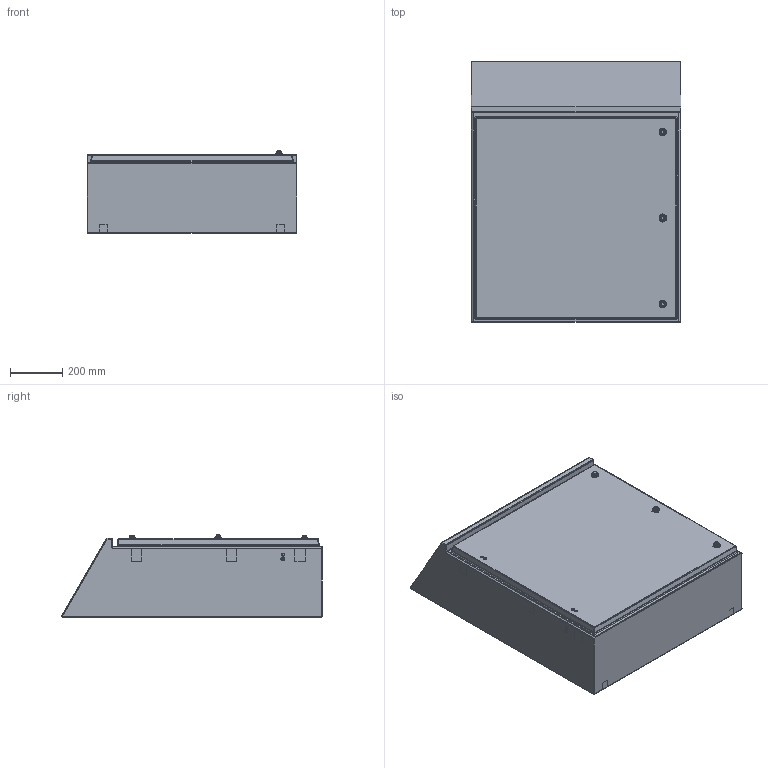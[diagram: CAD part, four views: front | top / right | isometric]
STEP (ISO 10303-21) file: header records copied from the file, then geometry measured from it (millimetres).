
FILE_DESCRIPTION (( 'STEP AP203' ), '1' );
FILE_NAME ('SITO-QSH88.STEP', '2021-05-06T07:49:06', ( '' ), ( '' ), 'SwSTEP 2.0', 'SolidWorks 2020', '' );
FILE_SCHEMA (( 'CONFIG_CONTROL_DESIGN' ));
Length unit declared in the file: millimetre
Products named in the file (20): SITO-FASCIAME QSH88_QSH45; CEPOM(CORPO); DM06I; SVPIQSH88A; SG460-SD senza scarpetta_Configurazione 1; SG460-32-HD_Posizione 4; PIQSH88A; SITO-ASSIEME PORTA QSH88; SITO-PORTA QSH88; SG460-32-HD_Posizione 3; DMFD08Z; 1000-S1491; PRM615TL316; CERNIERA; GHIERA SG CASSETTE; ADMT_ADMT; SITO-QSH88; Scarpetta H.32 SG460-SD_Configurazione 2; RP0612I
Assembly tree (39 placements, depth 4):
  SITO-QSH88
    SITO-FASCIAME QSH88_QSH45
    PIQSH88A
      SVPIQSH88A
    SITO-ASSIEME PORTA QSH88
      SITO-PORTA QSH88
      SG460-32-HD_Posizione 4
        1000-S1491
        GHIERA SG CASSETTE
        Scarpetta H.32 SG460-SD_Configurazione 2
        CEPOM(CORPO)
        SG460-SD senza scarpetta_Configurazione 1
      SG460-32-HD_Posizione 3
        1000-S1491
        GHIERA SG CASSETTE
        Scarpetta H.32 SG460-SD_Configurazione 2
        CEPOM(CORPO)
      PRM615TL316  x2
      ADMT_ADMT  x2
      RP0612I  x2
      DM06I  x2
      SG460-32-HD_Posizione 4
        1000-S1491
        GHIERA SG CASSETTE
        Scarpetta H.32 SG460-SD_Configurazione 2
        CEPOM(CORPO)
        SG460-SD senza scarpetta_Configurazione 1
    DMFD08Z  x4
    ADMT_ADMT  x2
    CERNIERA  x3
Bounding box: 800 x 994.81 x 313.12 mm (x, y, z)
Volume: 6036205.9 mm3; surface area: 6779917.4 mm2
Topology: 47 solids, 47 shells, 2194 faces, 5419 edges, 3373 vertices
Faces by surface type: plane 1122, cylinder 708, bspline 164, cone 154, sphere 28, torus 18
Entity records: 38207 total; most frequent: CARTESIAN_POINT 9644, DIRECTION 5462, ORIENTED_EDGE 5398, EDGE_CURVE 2699, AXIS2_PLACEMENT_3D 1928, VERTEX_POINT 1679, LINE 1606, VECTOR 1606
